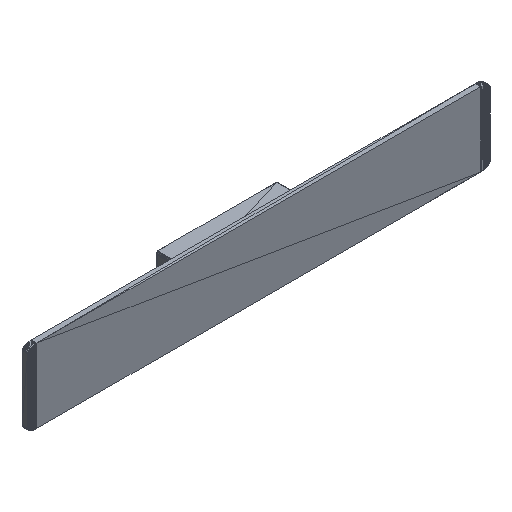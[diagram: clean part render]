
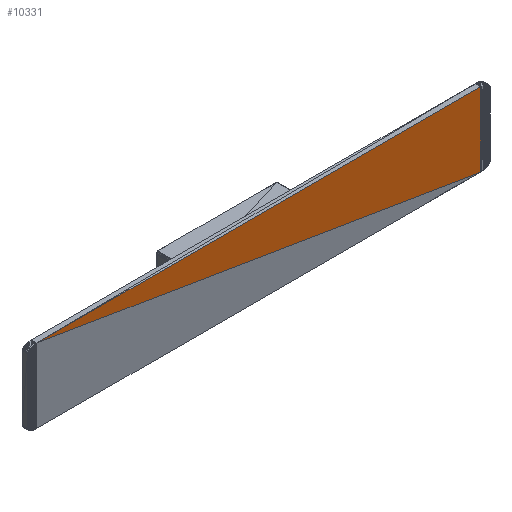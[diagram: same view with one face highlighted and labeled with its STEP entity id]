
A CAD part, isometric view. The second image highlights one B-rep face of the part: STEP entity #10331.
In plain terms, the highlighted planar face has unit normal (0, -1, 0).
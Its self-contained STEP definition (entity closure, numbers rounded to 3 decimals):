
#10221 = VERTEX_POINT('',#10222);
#10222 = CARTESIAN_POINT('',(10.,0.,
    80.));
#10236 = PLANE('',#10237);
#10237 = AXIS2_PLACEMENT_3D('',#10238,#10239,#10240);
#10238 = CARTESIAN_POINT('',(231.655,0.,
    21.655));
#10239 = DIRECTION('',(0.,-1.,0.));
#10240 = DIRECTION('',(0.,0.,-1.));
#10279 = VERTEX_POINT('',#10280);
#10280 = CARTESIAN_POINT('',(490.,0.,
    0.));
#10306 = EDGE_CURVE('',#10279,#10221,#10307,.T.);
#10307 = SURFACE_CURVE('',#10308,(#10312,#10319),.PCURVE_S1.);
#10308 = LINE('',#10309,#10310);
#10309 = CARTESIAN_POINT('',(490.,0.,
    0.));
#10310 = VECTOR('',#10311,1.);
#10311 = DIRECTION('',(-0.986,0.,0.164));
#10312 = PCURVE('',#10236,#10313);
#10313 = DEFINITIONAL_REPRESENTATION('',(#10314),#10318);
#10314 = LINE('',#10315,#10316);
#10315 = CARTESIAN_POINT('',(21.655,258.345));
#10316 = VECTOR('',#10317,1.);
#10317 = DIRECTION('',(-0.164,-0.986));
#10318 = ( GEOMETRIC_REPRESENTATION_CONTEXT(2) 
PARAMETRIC_REPRESENTATION_CONTEXT() REPRESENTATION_CONTEXT('2D SPACE',''
  ) );
#10319 = PCURVE('',#10320,#10325);
#10320 = PLANE('',#10321);
#10321 = AXIS2_PLACEMENT_3D('',#10322,#10323,#10324);
#10322 = CARTESIAN_POINT('',(268.345,0.,
    58.345));
#10323 = DIRECTION('',(-0.,-1.,-0.));
#10324 = DIRECTION('',(0.,0.,-1.));
#10325 = DEFINITIONAL_REPRESENTATION('',(#10326),#10330);
#10326 = LINE('',#10327,#10328);
#10327 = CARTESIAN_POINT('',(58.345,221.655));
#10328 = VECTOR('',#10329,1.);
#10329 = DIRECTION('',(-0.164,-0.986));
#10330 = ( GEOMETRIC_REPRESENTATION_CONTEXT(2) 
PARAMETRIC_REPRESENTATION_CONTEXT() REPRESENTATION_CONTEXT('2D SPACE',''
  ) );
#10331 = ADVANCED_FACE('',(#10332),#10320,.T.);
#10332 = FACE_BOUND('',#10333,.T.);
#10333 = EDGE_LOOP('',(#10334,#10335,#10363));
#10334 = ORIENTED_EDGE('',*,*,#10306,.F.);
#10335 = ORIENTED_EDGE('',*,*,#10336,.T.);
#10336 = EDGE_CURVE('',#10279,#10337,#10339,.T.);
#10337 = VERTEX_POINT('',#10338);
#10338 = CARTESIAN_POINT('',(490.,0.,
    80.));
#10339 = SURFACE_CURVE('',#10340,(#10344,#10351),.PCURVE_S1.);
#10340 = LINE('',#10341,#10342);
#10341 = CARTESIAN_POINT('',(490.,0.,
    0.));
#10342 = VECTOR('',#10343,1.);
#10343 = DIRECTION('',(0.,0.,1.));
#10344 = PCURVE('',#10320,#10345);
#10345 = DEFINITIONAL_REPRESENTATION('',(#10346),#10350);
#10346 = LINE('',#10347,#10348);
#10347 = CARTESIAN_POINT('',(58.345,221.655));
#10348 = VECTOR('',#10349,1.);
#10349 = DIRECTION('',(-1.,0.));
#10350 = ( GEOMETRIC_REPRESENTATION_CONTEXT(2) 
PARAMETRIC_REPRESENTATION_CONTEXT() REPRESENTATION_CONTEXT('2D SPACE',''
  ) );
#10351 = PCURVE('',#10352,#10357);
#10352 = PLANE('',#10353);
#10353 = AXIS2_PLACEMENT_3D('',#10354,#10355,#10356);
#10354 = CARTESIAN_POINT('',(490.329,0.,
    39.687));
#10355 = DIRECTION('',(0.,-1.,0.));
#10356 = DIRECTION('',(-1.,0.,0.));
#10357 = DEFINITIONAL_REPRESENTATION('',(#10358),#10362);
#10358 = LINE('',#10359,#10360);
#10359 = CARTESIAN_POINT('',(0.329,39.687));
#10360 = VECTOR('',#10361,1.);
#10361 = DIRECTION('',(0.,-1.));
#10362 = ( GEOMETRIC_REPRESENTATION_CONTEXT(2) 
PARAMETRIC_REPRESENTATION_CONTEXT() REPRESENTATION_CONTEXT('2D SPACE',''
  ) );
#10363 = ORIENTED_EDGE('',*,*,#10364,.T.);
#10364 = EDGE_CURVE('',#10337,#10221,#10365,.T.);
#10365 = SURFACE_CURVE('',#10366,(#10370,#10377),.PCURVE_S1.);
#10366 = LINE('',#10367,#10368);
#10367 = CARTESIAN_POINT('',(490.,0.,
    80.));
#10368 = VECTOR('',#10369,1.);
#10369 = DIRECTION('',(-1.,0.,0.));
#10370 = PCURVE('',#10320,#10371);
#10371 = DEFINITIONAL_REPRESENTATION('',(#10372),#10376);
#10372 = LINE('',#10373,#10374);
#10373 = CARTESIAN_POINT('',(-21.655,221.655));
#10374 = VECTOR('',#10375,1.);
#10375 = DIRECTION('',(0.,-1.));
#10376 = ( GEOMETRIC_REPRESENTATION_CONTEXT(2) 
PARAMETRIC_REPRESENTATION_CONTEXT() REPRESENTATION_CONTEXT('2D SPACE',''
  ) );
#10377 = PCURVE('',#10378,#10383);
#10378 = PLANE('',#10379);
#10379 = AXIS2_PLACEMENT_3D('',#10380,#10381,#10382);
#10380 = CARTESIAN_POINT('',(251.491,1.509,
    80.));
#10381 = DIRECTION('',(0.,0.,1.));
#10382 = DIRECTION('',(0.,1.,0.));
#10383 = DEFINITIONAL_REPRESENTATION('',(#10384),#10388);
#10384 = LINE('',#10385,#10386);
#10385 = CARTESIAN_POINT('',(-1.509,-238.509));
#10386 = VECTOR('',#10387,1.);
#10387 = DIRECTION('',(0.,1.));
#10388 = ( GEOMETRIC_REPRESENTATION_CONTEXT(2) 
PARAMETRIC_REPRESENTATION_CONTEXT() REPRESENTATION_CONTEXT('2D SPACE',''
  ) );
